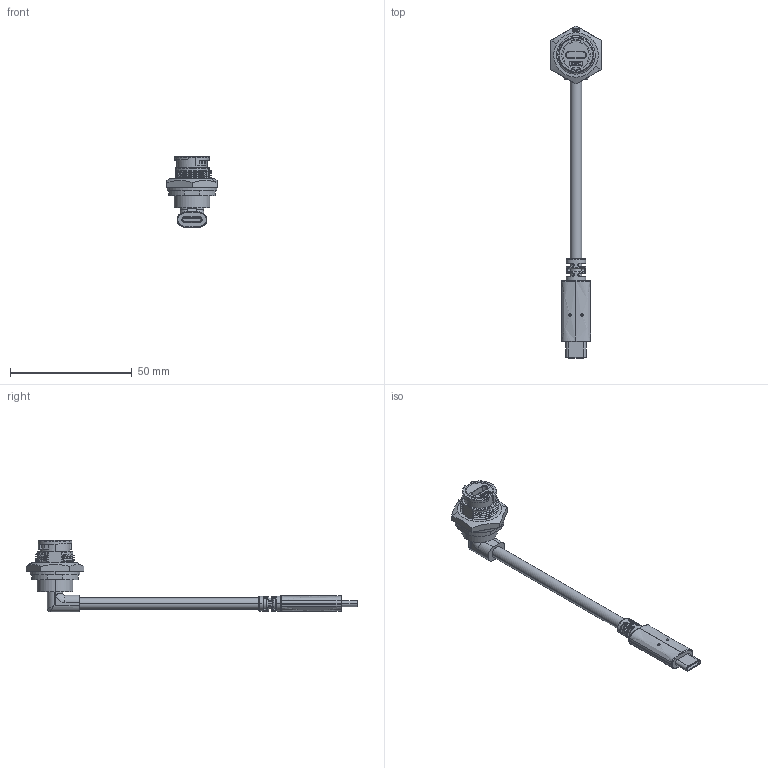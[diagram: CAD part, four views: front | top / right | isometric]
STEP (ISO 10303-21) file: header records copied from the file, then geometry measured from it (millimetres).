
FILE_DESCRIPTION (( 'STEP AP203' ), '1' );
FILE_NAME ('RR-11C209-CS-XX.STEP', '2022-10-07T06:27:10', ( '' ), ( '' ), 'SwSTEP 2.0', 'SolidWorks 2019', '' );
FILE_SCHEMA (( 'CONFIG_CONTROL_DESIGN' ));
Length unit declared in the file: millimetre
Products named in the file (1): RR-11C209-CS-XX
Bounding box: 20.6 x 136.24 x 29.5 mm (x, y, z)
Volume: 8471.7 mm3; surface area: 6642.3 mm2
Topology: 3 solids, 4 shells, 506 faces, 1345 edges, 865 vertices
Faces by surface type: plane 268, cylinder 124, bspline 83, torus 21, cone 10
Entity records: 28017 total; most frequent: CARTESIAN_POINT 16529, ORIENTED_EDGE 2686, DIRECTION 1948, EDGE_CURVE 1343, VERTEX_POINT 865, VECTOR 656, LINE 656, AXIS2_PLACEMENT_3D 646
